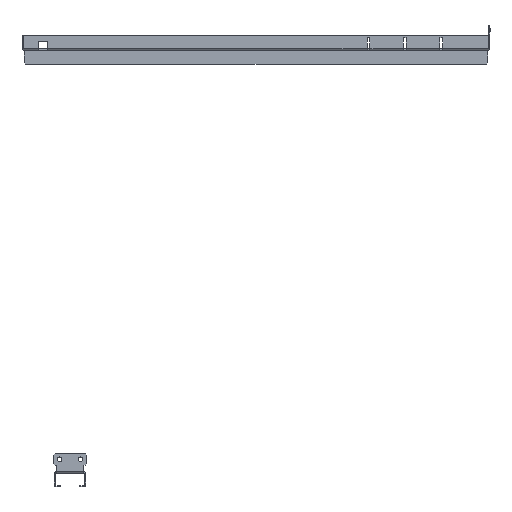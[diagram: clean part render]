
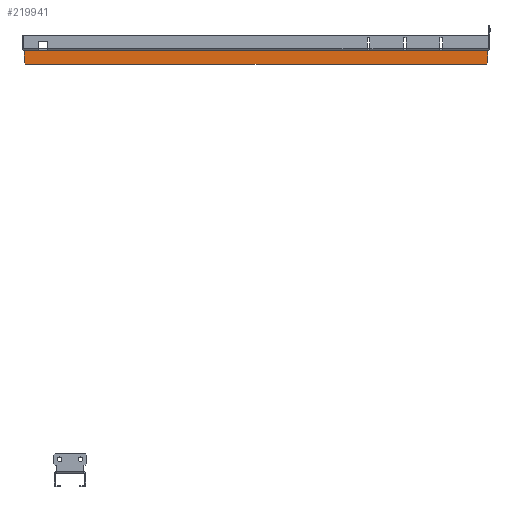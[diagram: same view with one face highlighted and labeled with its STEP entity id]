
A CAD part, front view. The second image highlights one B-rep face of the part: STEP entity #219941.
In plain terms, the highlighted planar face has unit normal (0, -1, 0).
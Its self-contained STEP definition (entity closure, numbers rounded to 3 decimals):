
#144721=CARTESIAN_POINT(' ',(-277.,694.5,-16.));
#144722=VERTEX_POINT(' ',#144721);
#144736=CARTESIAN_POINT(' ',(-277.,694.5,-16.));
#144741=DIRECTION(' ',(0.,0.,1.));
#144746=VECTOR(' ',#144741,1.);
#144751=LINE('',#144736,#144746);
#144756=CARTESIAN_POINT(' ',(-277.,694.5,-2.1));
#144757=VERTEX_POINT(' ',#144756);
#144761=EDGE_CURVE(' ',#144722,#144757,#144751,.T.);
#144946=CARTESIAN_POINT(' ',(-277.,694.5,-2.1));
#144951=DIRECTION(' ',(1.,0.,0.));
#144956=VECTOR(' ',#144951,1.);
#144961=LINE('',#144946,#144956);
#144966=CARTESIAN_POINT(' ',(277.,694.5,-2.1));
#144967=VERTEX_POINT(' ',#144966);
#144971=EDGE_CURVE(' ',#144757,#144967,#144961,.T.);
#145066=CARTESIAN_POINT(' ',(277.,694.5,-2.1));
#145071=DIRECTION(' ',(0.,0.,-1.));
#145076=VECTOR(' ',#145071,1.);
#145081=LINE('',#145066,#145076);
#145086=CARTESIAN_POINT(' ',(277.,694.5,-16.));
#145087=VERTEX_POINT(' ',#145086);
#145091=EDGE_CURVE(' ',#144967,#145087,#145081,.T.);
#219756=CARTESIAN_POINT(' ',(-275.,694.5,-18.));
#219757=VERTEX_POINT(' ',#219756);
#219771=CARTESIAN_POINT(' ',(-277.,694.5,-16.));
#219776=DIRECTION(' ',(0.707,0.,-0.707));
#219781=VECTOR(' ',#219776,1.);
#219786=LINE('',#219771,#219781);
#219791=EDGE_CURVE(' ',#144722,#219757,#219786,.T.);
#219821=DIRECTION(' ',(0.,-1.,0.));
#219826=CARTESIAN_POINT(' ',(-277.,694.5,-2.1));
#219831=DIRECTION(' ',(0.,0.,-1.));
#219836=AXIS2_PLACEMENT_3D(' ',#219826,#219821,#219831);
#219841=PLANE('NONE',#219836);
#219846=ORIENTED_EDGE(' ',*,*,#144761,.F.);
#219851=ORIENTED_EDGE(' ',*,*,#219791,.T.);
#219856=CARTESIAN_POINT(' ',(275.,694.5,-18.));
#219861=DIRECTION(' ',(-1.,0.,0.));
#219866=VECTOR(' ',#219861,1.);
#219871=LINE('',#219856,#219866);
#219876=CARTESIAN_POINT(' ',(275.,694.5,-18.));
#219877=VERTEX_POINT(' ',#219876);
#219881=EDGE_CURVE(' ',#219877,#219757,#219871,.T.);
#219886=ORIENTED_EDGE(' ',*,*,#219881,.F.);
#219891=CARTESIAN_POINT(' ',(275.,694.5,-18.));
#219896=DIRECTION(' ',(0.707,0.,0.707));
#219901=VECTOR(' ',#219896,1.);
#219906=LINE('',#219891,#219901);
#219911=EDGE_CURVE(' ',#219877,#145087,#219906,.T.);
#219916=ORIENTED_EDGE(' ',*,*,#219911,.T.);
#219921=ORIENTED_EDGE(' ',*,*,#145091,.F.);
#219926=ORIENTED_EDGE(' ',*,*,#144971,.F.);
#219931=EDGE_LOOP(' ',(#219846,#219851,#219886,#219916,#219921,#219926));
#219936=FACE_OUTER_BOUND(' ',#219931,.T.);
#219941=ADVANCED_FACE('NONE',(#219936),#219841,.T.);
